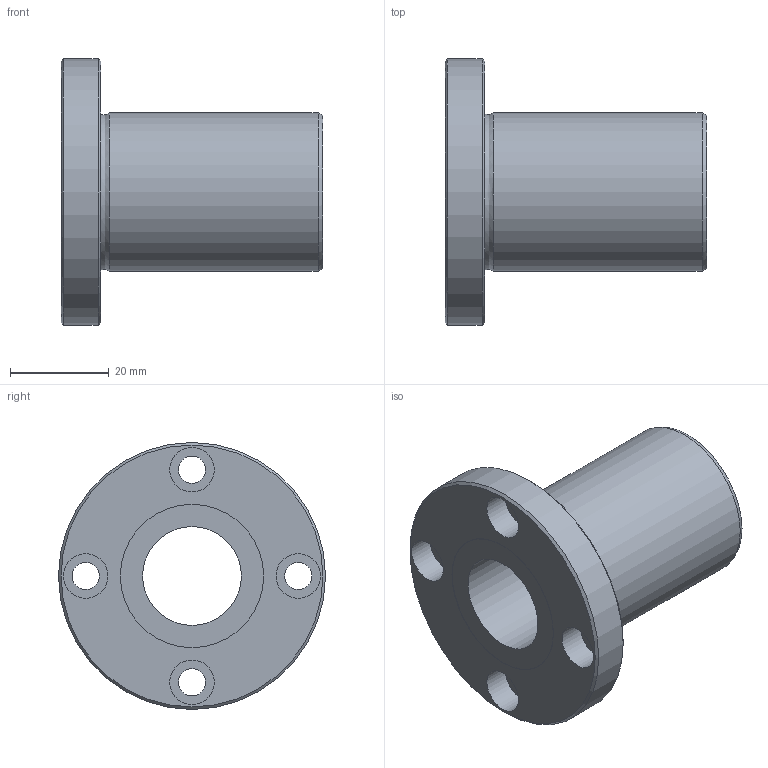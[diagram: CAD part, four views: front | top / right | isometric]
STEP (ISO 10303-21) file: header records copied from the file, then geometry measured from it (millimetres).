
FILE_DESCRIPTION((''),'2;1');
FILE_NAME('D:\製品 (図面)\カタログ用3D\メンテナンスフリー関連\STEP形式\LF-MF\LF20MF.stp','2010-06-01T16:05:09',('Tsuchiya'),(''),'Autodesk Inventor 10','Autodesk Inventor 10','');
FILE_SCHEMA(('AUTOMOTIVE_DESIGN { 1 0 10303 214 1 1 1 1 }'));
Length unit declared in the file: millimetre
Products named in the file (1): LF20MF
Bounding box: 53 x 54 x 54 mm (x, y, z)
Volume: 36072.1 mm3; surface area: 13658.4 mm2
Topology: 1 solids, 1 shells, 26 faces, 47 edges, 30 vertices
Faces by surface type: cylinder 13, plane 9, cone 2, torus 1, bspline 1
Full cylindrical faces by diameter (mm): 5.5 x4, 9 x4, 20 x1, 29 x2, 32 x1, 54 x1
Entity records: 665 total; most frequent: CARTESIAN_POINT 149, DIRECTION 112, ORIENTED_EDGE 60, EDGE_LOOP 60, AXIS2_PLACEMENT_3D 56, FACE_BOUND 34, VERTEX_POINT 30, CIRCLE 30
